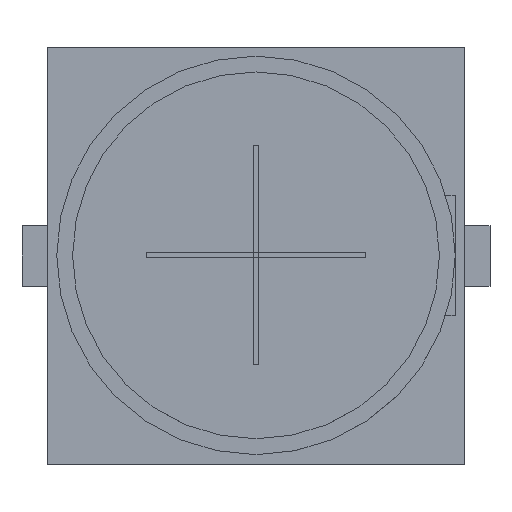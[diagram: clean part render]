
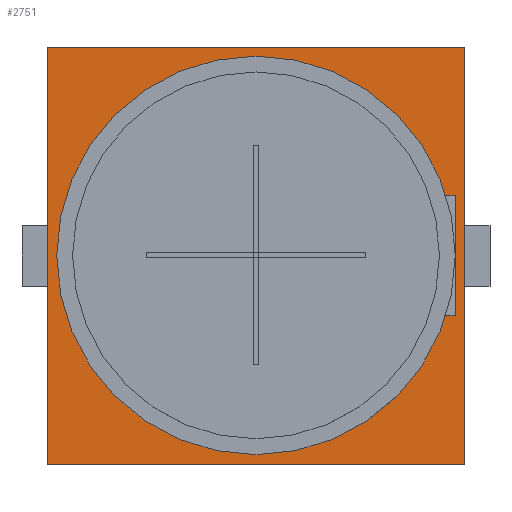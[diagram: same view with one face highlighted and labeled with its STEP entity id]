
A CAD part, top view. The second image highlights one B-rep face of the part: STEP entity #2751.
In plain terms, the highlighted planar face has unit normal (0, 0, 1).
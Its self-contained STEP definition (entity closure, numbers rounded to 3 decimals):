
#2622 = VERTEX_POINT('',#2623);
#2623 = CARTESIAN_POINT('',(-3.3,-3.3,0.65));
#2629 = EDGE_CURVE('',#2622,#2630,#2632,.T.);
#2630 = VERTEX_POINT('',#2631);
#2631 = CARTESIAN_POINT('',(3.3,-3.3,0.65));
#2632 = LINE('',#2633,#2634);
#2633 = CARTESIAN_POINT('',(-3.3,-3.3,0.65));
#2634 = VECTOR('',#2635,1.);
#2635 = DIRECTION('',(1.,0.,0.));
#2660 = EDGE_CURVE('',#2630,#2661,#2663,.T.);
#2661 = VERTEX_POINT('',#2662);
#2662 = CARTESIAN_POINT('',(3.3,3.3,0.65));
#2663 = LINE('',#2664,#2665);
#2664 = CARTESIAN_POINT('',(3.3,-3.3,0.65));
#2665 = VECTOR('',#2666,1.);
#2666 = DIRECTION('',(0.,1.,0.));
#2691 = EDGE_CURVE('',#2661,#2692,#2694,.T.);
#2692 = VERTEX_POINT('',#2693);
#2693 = CARTESIAN_POINT('',(-3.3,3.3,0.65));
#2694 = LINE('',#2695,#2696);
#2695 = CARTESIAN_POINT('',(3.3,3.3,0.65));
#2696 = VECTOR('',#2697,1.);
#2697 = DIRECTION('',(-1.,0.,0.));
#2722 = EDGE_CURVE('',#2692,#2622,#2723,.T.);
#2723 = LINE('',#2724,#2725);
#2724 = CARTESIAN_POINT('',(-3.3,3.3,0.65));
#2725 = VECTOR('',#2726,1.);
#2726 = DIRECTION('',(0.,-1.,0.));
#2751 = ADVANCED_FACE('',(#2752),#2758,.T.);
#2752 = FACE_BOUND('',#2753,.T.);
#2753 = EDGE_LOOP('',(#2754,#2755,#2756,#2757));
#2754 = ORIENTED_EDGE('',*,*,#2629,.T.);
#2755 = ORIENTED_EDGE('',*,*,#2660,.T.);
#2756 = ORIENTED_EDGE('',*,*,#2691,.T.);
#2757 = ORIENTED_EDGE('',*,*,#2722,.T.);
#2758 = PLANE('',#2759);
#2759 = AXIS2_PLACEMENT_3D('',#2760,#2761,#2762);
#2760 = CARTESIAN_POINT('',(0.,0.,0.65)
  );
#2761 = DIRECTION('',(0.,0.,1.));
#2762 = DIRECTION('',(1.,0.,-0.));
